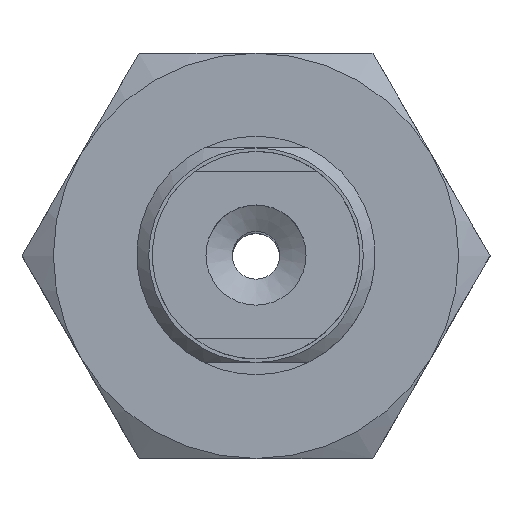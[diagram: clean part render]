
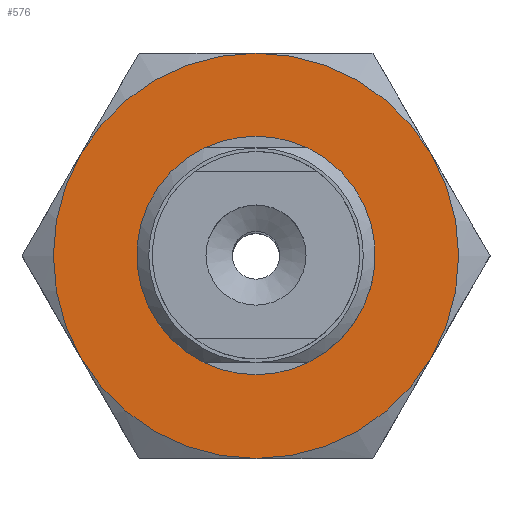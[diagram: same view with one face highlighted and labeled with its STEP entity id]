
A CAD part, top view. The second image highlights one B-rep face of the part: STEP entity #576.
In plain terms, the highlighted planar face has unit normal (0, 0, 1).
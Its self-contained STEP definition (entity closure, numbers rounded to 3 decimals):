
#576=ADVANCED_FACE('',(#811,#812),#813,.T.);
#811=FACE_BOUND('',#1142,.T.);
#812=FACE_OUTER_BOUND('',#1143,.T.);
#813=PLANE('',#1144);
#1142=EDGE_LOOP('',(#1767));
#1143=EDGE_LOOP('',(#1768,#1769,#1770,#1771,#1772,#1773));
#1144=AXIS2_PLACEMENT_3D('',#1774,#1775,#1776);
#1767=ORIENTED_EDGE('',*,*,#2306,.F.);
#1768=ORIENTED_EDGE('',*,*,#2281,.F.);
#1769=ORIENTED_EDGE('',*,*,#2296,.F.);
#1770=ORIENTED_EDGE('',*,*,#2300,.F.);
#1771=ORIENTED_EDGE('',*,*,#2304,.F.);
#1772=ORIENTED_EDGE('',*,*,#2283,.F.);
#1773=ORIENTED_EDGE('',*,*,#2276,.F.);
#1774=CARTESIAN_POINT('',(-9.815,-8.5,4.0));
#1775=DIRECTION('',(0.0,0.0,1.0));
#1776=DIRECTION('',(1.0,0.0,0.0));
#2276=EDGE_CURVE('',#2573,#2560,#2575,.T.);
#2281=EDGE_CURVE('',#2582,#2573,#2585,.T.);
#2283=EDGE_CURVE('',#2560,#2570,#2587,.T.);
#2296=EDGE_CURVE('',#2603,#2582,#2608,.T.);
#2300=EDGE_CURVE('',#2594,#2603,#2612,.T.);
#2304=EDGE_CURVE('',#2570,#2594,#2617,.T.);
#2306=EDGE_CURVE('',#2619,#2619,#2620,.T.);
#2560=VERTEX_POINT('',#3090);
#2570=VERTEX_POINT('',#3117);
#2573=VERTEX_POINT('',#3128);
#2575=CIRCLE('',#3134,8.5);
#2582=VERTEX_POINT('',#3149);
#2585=CIRCLE('',#3156,8.5);
#2587=CIRCLE('',#3162,8.5);
#2594=VERTEX_POINT('',#3178);
#2603=VERTEX_POINT('',#3204);
#2608=CIRCLE('',#3221,8.5);
#2612=CIRCLE('',#3230,8.5);
#2617=CIRCLE('',#3235,8.5);
#2619=VERTEX_POINT('',#3241);
#2620=CIRCLE('',#3242,4.5);
#3090=CARTESIAN_POINT('',(-7.361,4.25,4.0));
#3117=CARTESIAN_POINT('',(0.,8.5,4.0));
#3128=CARTESIAN_POINT('',(-7.361,-4.25,4.0));
#3134=AXIS2_PLACEMENT_3D('',#3618,#3619,#3620);
#3149=CARTESIAN_POINT('',(0.,-8.5,4.0));
#3156=AXIS2_PLACEMENT_3D('',#3624,#3625,#3626);
#3162=AXIS2_PLACEMENT_3D('',#3627,#3628,#3629);
#3178=CARTESIAN_POINT('',(7.361,4.25,4.0));
#3204=CARTESIAN_POINT('',(7.361,-4.25,4.0));
#3221=AXIS2_PLACEMENT_3D('',#3635,#3636,#3637);
#3230=AXIS2_PLACEMENT_3D('',#3642,#3643,#3644);
#3235=AXIS2_PLACEMENT_3D('',#3654,#3655,#3656);
#3241=CARTESIAN_POINT('',(0.0,-4.5,4.0));
#3242=AXIS2_PLACEMENT_3D('',#3657,#3658,#3659);
#3618=CARTESIAN_POINT('',(0.,0.,4.0));
#3619=DIRECTION('',(0.,0.,-1.0));
#3620=DIRECTION('',(0.866,0.5,0.));
#3624=CARTESIAN_POINT('',(0.,0.,4.0));
#3625=DIRECTION('',(0.,0.,-1.0));
#3626=DIRECTION('',(0.866,0.5,0.));
#3627=CARTESIAN_POINT('',(0.,0.,4.0));
#3628=DIRECTION('',(0.,0.,-1.0));
#3629=DIRECTION('',(0.866,0.5,0.));
#3635=CARTESIAN_POINT('',(0.,0.,4.0));
#3636=DIRECTION('',(0.,0.,-1.0));
#3637=DIRECTION('',(0.866,0.5,0.));
#3642=CARTESIAN_POINT('',(0.,0.,4.0));
#3643=DIRECTION('',(0.,0.,-1.0));
#3644=DIRECTION('',(0.866,0.5,0.));
#3654=CARTESIAN_POINT('',(0.,0.,4.0));
#3655=DIRECTION('',(0.,0.,-1.0));
#3656=DIRECTION('',(0.866,0.5,0.));
#3657=CARTESIAN_POINT('',(0.0,0.0,4.0));
#3658=DIRECTION('',(0.0,0.,1.0));
#3659=DIRECTION('',(0.0,-1.0,0.));
